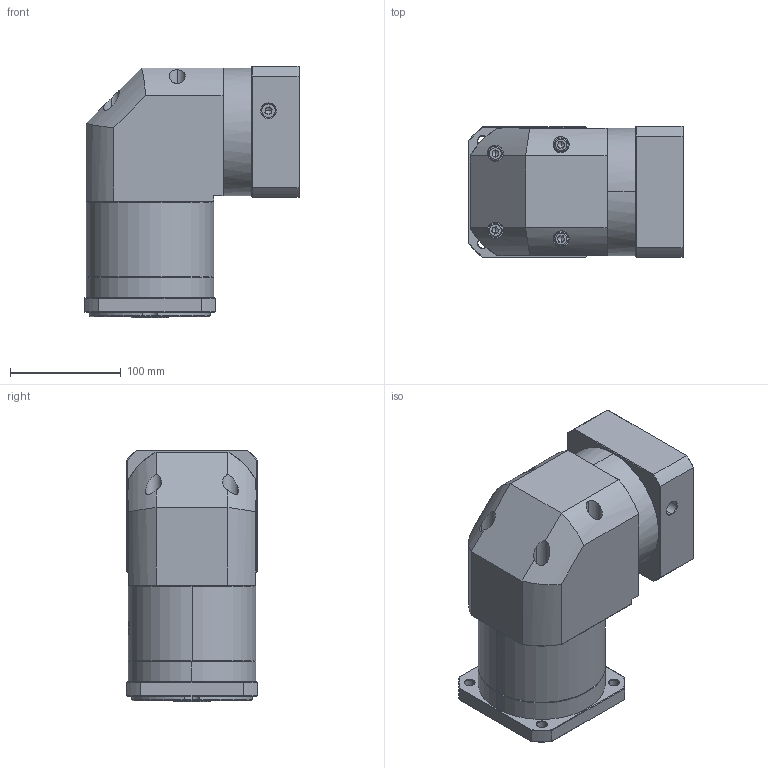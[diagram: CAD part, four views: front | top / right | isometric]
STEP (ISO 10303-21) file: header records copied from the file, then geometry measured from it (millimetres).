
FILE_DESCRIPTION (( 'STEP AP214' ), '1' );
FILE_NAME ('ZFR120A-K25-L2-P2-19-95-130-M8.step', '2023-08-27T08:15:08', ( '' ), ( '' ), 'SwSTEP 2.0', 'SolidWorks 2016', '' );
FILE_SCHEMA (( 'AUTOMOTIVE_DESIGN' ));
Length unit declared in the file: millimetre
Products named in the file (1): ZFR120A-K25-L2-P2-19-95-130-M8
Bounding box: 193.9 x 118 x 226.5 mm (x, y, z)
Volume: 3147493.6 mm3; surface area: 252237 mm2
Topology: 6 solids, 6 shells, 2208 faces, 5837 edges, 3734 vertices
Faces by surface type: plane 1054, bspline 415, cylinder 401, cone 330, torus 8
Entity records: 118735 total; most frequent: CARTESIAN_POINT 45057, ORIENTED_EDGE 11618, DIRECTION 8445, EDGE_CURVE 5809, VERTEX_POINT 3734, LINE 3105, VECTOR 3105, AXIS2_PLACEMENT_3D 2670
